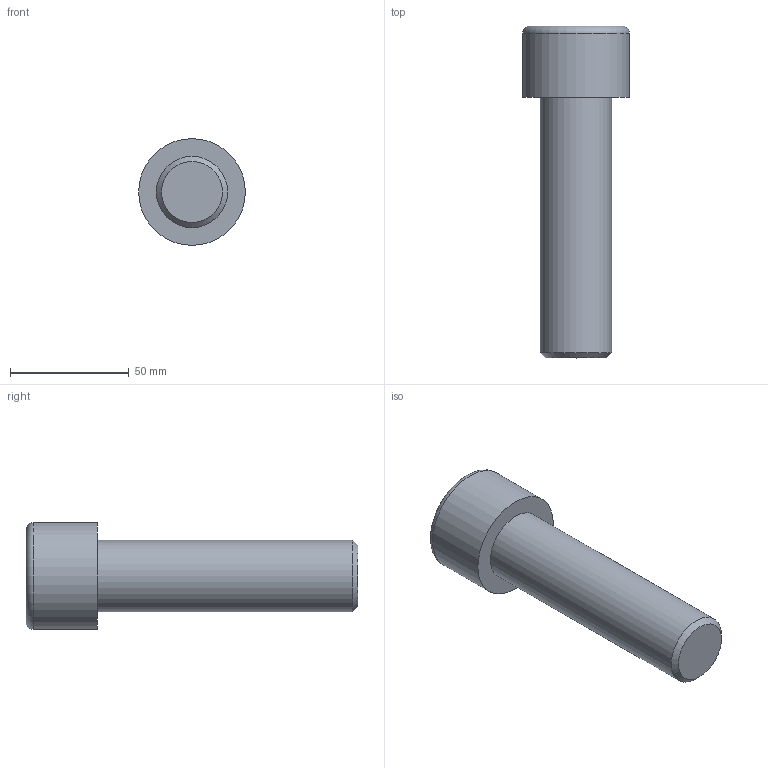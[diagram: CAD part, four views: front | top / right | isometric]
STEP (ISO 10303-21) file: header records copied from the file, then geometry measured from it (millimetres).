
FILE_DESCRIPTION(/* description */ (''),/* implementation_level */ '2;1');
FILE_NAME(/* name */ 'C:\Users\D\Documents\Inventor\各種小物\JIS\JIS B 1176 六角穴付きボルト\M30x110.stp',/* time_stamp */ '2022-05-09T19:01:52+09:00',/* author */ ('D'),/* organization */ (''),/* preprocessor_version */ 'ST-DEVELOPER v18',/* originating_system */ 'Autodesk Inventor 2020',/* authorisation */ '');
FILE_SCHEMA (('AUTOMOTIVE_DESIGN { 1 0 10303 214 3 1 1 }'));
Length unit declared in the file: millimetre
Products named in the file (1): M1.6x2.5
Bounding box: 45 x 140 x 45 mm (x, y, z)
Volume: 117293.1 mm3; surface area: 18773.8 mm2
Topology: 1 solids, 1 shells, 14 faces, 33 edges, 22 vertices
Faces by surface type: plane 9, cone 2, cylinder 2, torus 1
Full cylindrical faces by diameter (mm): 30 x1, 45 x1
Entity records: 435 total; most frequent: CARTESIAN_POINT 83, ORIENTED_EDGE 64, DIRECTION 64, EDGE_CURVE 32, AXIS2_PLACEMENT_3D 24, VERTEX_POINT 22, EDGE_LOOP 16, LINE 16
